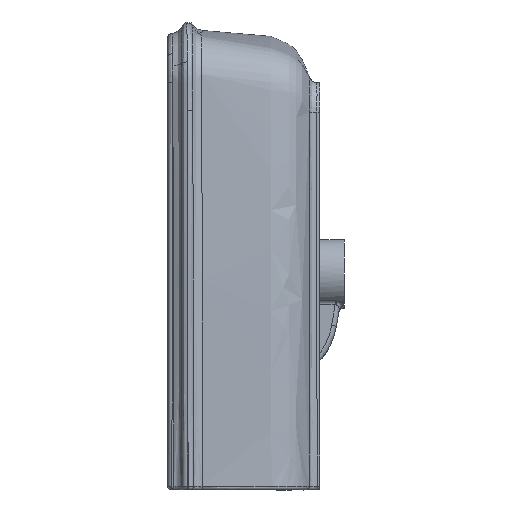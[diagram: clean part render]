
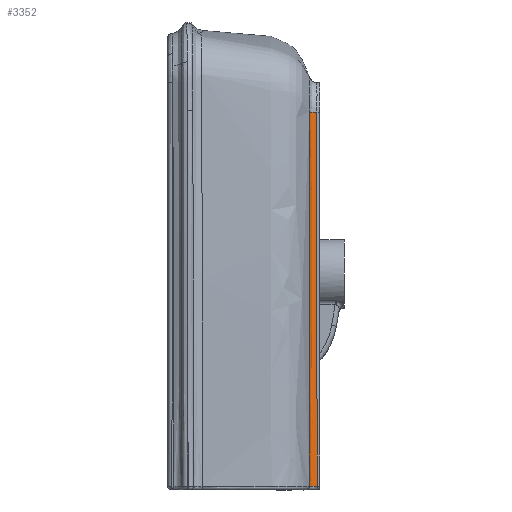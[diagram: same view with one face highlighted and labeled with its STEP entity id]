
A CAD part, left-side view. The second image highlights one B-rep face of the part: STEP entity #3352.
In plain terms, the highlighted free-form (B-spline) face has degree [3, 2] with [8, 3] control points.
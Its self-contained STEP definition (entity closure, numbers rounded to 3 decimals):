
#22 = CARTESIAN_POINT ( 'NONE',  ( -230., -152.072, 133.059 ) ) ;
#99 = CARTESIAN_POINT ( 'NONE',  ( -230., -151.983, 165. ) ) ;
#169 = CARTESIAN_POINT ( 'NONE',  ( -230., -152.209, -218.29 ) ) ;
#287 = EDGE_CURVE ( 'NONE', #6232, #12961, #1683, .T. ) ;
#292 = CARTESIAN_POINT ( 'NONE',  ( -232.533, -146.365, -216.001 ) ) ;
#359 = CARTESIAN_POINT ( 'NONE',  ( -230.326, -149.901, -216. ) ) ;
#578 = EDGE_CURVE ( 'NONE', #9837, #5517, #9220, .T. ) ;
#942 =( BOUNDED_SURFACE ( )  B_SPLINE_SURFACE ( 3, 2, ( 
 ( #99, #11779, #5875 ),
 ( #22, #5942, #5795 ),
 ( #4875, #8067, #3663 ),
 ( #4729, #2586, #1159 ),
 ( #13991, #11848, #12926 ),
 ( #12705, #10354, #2517 ),
 ( #3589, #1376, #6013 ),
 ( #169, #9356, #11634 ) ),
 .UNSPECIFIED., .F., .F., .F. ) 
 B_SPLINE_SURFACE_WITH_KNOTS ( ( 4, 2, 2, 4 ),
 ( 3, 3 ),
 ( 0., 0.096, 0.192, 0.383 ),
 ( 0., 1. ),
 .UNSPECIFIED. ) 
 GEOMETRIC_REPRESENTATION_ITEM ( )  RATIONAL_B_SPLINE_SURFACE ( (
 ( 1., 0.78, 1.),
 ( 1., 0.774, 1.),
 ( 1., 0.77, 1.),
 ( 1., 0.764, 1.),
 ( 1., 0.763, 1.),
 ( 1., 0.761, 1.),
 ( 1., 0.762, 1.),
 ( 1., 0.764, 1.) ) ) 
 REPRESENTATION_ITEM ( '' )  SURFACE ( )  );
#1159 = CARTESIAN_POINT ( 'NONE',  ( -236.653, -144.319, 37.23 ) ) ;
#1191 = ORIENTED_EDGE ( 'NONE', *, *, #5946, .F. ) ;
#1376 = CARTESIAN_POINT ( 'NONE',  ( -230., -145.441, -154.275 ) ) ;
#1412 = CARTESIAN_POINT ( 'NONE',  ( -230., -152.072, 133.25 ) ) ;
#1421 = CARTESIAN_POINT ( 'NONE',  ( -231.317, -147.787, -216.001 ) ) ;
#1571 = CARTESIAN_POINT ( 'NONE',  ( -230.042, -151.268, -216. ) ) ;
#1683 = CIRCLE ( 'NONE', #4604, 8. ) ;
#2111 = ORIENTED_EDGE ( 'NONE', *, *, #578, .T. ) ;
#2407 = CARTESIAN_POINT ( 'NONE',  ( -230., -152.204, 38. ) ) ;
#2443 = FACE_OUTER_BOUND ( 'NONE', #9061, .T. ) ;
#2517 = CARTESIAN_POINT ( 'NONE',  ( -236.735, -144.351, -90.526 ) ) ;
#2586 = CARTESIAN_POINT ( 'NONE',  ( -230., -145.456, 37.116 ) ) ;
#2604 = CARTESIAN_POINT ( 'NONE',  ( -236.661, -144.322, -216.001 ) ) ;
#2635 = CARTESIAN_POINT ( 'NONE',  ( -230.205, -150.351, -216. ) ) ;
#2638 = CARTESIAN_POINT ( 'NONE',  ( -236.516, -144.266, 101.482 ) ) ;
#2716 = CARTESIAN_POINT ( 'NONE',  ( -236.7, -144.337, -152.505 ) ) ;
#2862 = CARTESIAN_POINT ( 'NONE',  ( -236.196, -144.401, -216.001 ) ) ;
#2915 = CARTESIAN_POINT ( 'NONE',  ( -236.265, -144.174, 164.978 ) ) ;
#2985 = DIRECTION ( 'NONE',  ( 0., -1., 0.003 ) ) ;
#3137 = B_SPLINE_CURVE_WITH_KNOTS ( 'NONE', 3,
 ( #8324, #1412, #7116, #2407, #8178, #5833, #7044, #3846 ),
 .UNSPECIFIED., .F., .F.,
 ( 4, 2, 2, 4 ),
 ( 0., 0.095, 0.191, 0.381 ),
 .UNSPECIFIED. ) ;
#3352 = ADVANCED_FACE ( 'NONE', ( #2443 ), #942, .F. ) ;
#3589 = CARTESIAN_POINT ( 'NONE',  ( -230., -152.231, -154.408 ) ) ;
#3663 = CARTESIAN_POINT ( 'NONE',  ( -236.517, -144.267, 101.106 ) ) ;
#3783 = CARTESIAN_POINT ( 'NONE',  ( -236.661, -144.322, -216.001 ) ) ;
#3786 = CARTESIAN_POINT ( 'NONE',  ( -236.735, -144.351, -89.008 ) ) ;
#3846 = CARTESIAN_POINT ( 'NONE',  ( -230., -152.21, -216. ) ) ;
#3858 = CARTESIAN_POINT ( 'NONE',  ( -236.417, -144.228, 133.23 ) ) ;
#4010 = CARTESIAN_POINT ( 'NONE',  ( -231.585, -147.406, -216.001 ) ) ;
#4104 = ORIENTED_EDGE ( 'NONE', *, *, #11600, .F. ) ;
#4604 = AXIS2_PLACEMENT_3D ( 'NONE', #8447, #14457, #2985 ) ;
#4729 = CARTESIAN_POINT ( 'NONE',  ( -230., -152.205, 37.237 ) ) ;
#4875 = CARTESIAN_POINT ( 'NONE',  ( -230., -152.129, 101.118 ) ) ;
#5066 = CARTESIAN_POINT ( 'NONE',  ( -233.242, -145.762, -216.001 ) ) ;
#5225 = CARTESIAN_POINT ( 'NONE',  ( -232.04, -146.868, -216.001 ) ) ;
#5517 = VERTEX_POINT ( 'NONE', #11740 ) ;
#5795 = CARTESIAN_POINT ( 'NONE',  ( -236.418, -144.229, 133.043 ) ) ;
#5833 = CARTESIAN_POINT ( 'NONE',  ( -230., -152.251, -89. ) ) ;
#5875 = CARTESIAN_POINT ( 'NONE',  ( -236.265, -144.174, 164.978 ) ) ;
#5942 = CARTESIAN_POINT ( 'NONE',  ( -230., -145.525, 132.793 ) ) ;
#5946 = EDGE_CURVE ( 'NONE', #9837, #12961, #7582, .T. ) ;
#6013 = CARTESIAN_POINT ( 'NONE',  ( -236.699, -144.337, -154.406 ) ) ;
#6232 = VERTEX_POINT ( 'NONE', #10649 ) ;
#6286 = CARTESIAN_POINT ( 'NONE',  ( -236.686, -144.332, 6.237 ) ) ;
#6678 = ORIENTED_EDGE ( 'NONE', *, *, #287, .T. ) ;
#7044 = CARTESIAN_POINT ( 'NONE',  ( -230., -152.231, -152.5 ) ) ;
#7116 = CARTESIAN_POINT ( 'NONE',  ( -230., -152.128, 101.5 ) ) ;
#7266 = CARTESIAN_POINT ( 'NONE',  ( -230., -151.738, -216. ) ) ;
#7347 = CARTESIAN_POINT ( 'NONE',  ( -234.869, -144.833, -216.001 ) ) ;
#7582 = B_SPLINE_CURVE_WITH_KNOTS ( 'NONE', 3,
 ( #10764, #2716, #3786, #6286, #11631, #2638, #3858, #10910 ),
 .UNSPECIFIED., .F., .F.,
 ( 4, 2, 2, 4 ),
 ( 0.004, 0.194, 0.29, 0.385 ),
 .UNSPECIFIED. ) ;
#8067 = CARTESIAN_POINT ( 'NONE',  ( -230., -145.496, 100.994 ) ) ;
#8178 = CARTESIAN_POINT ( 'NONE',  ( -230., -152.223, 6.25 ) ) ;
#8324 = CARTESIAN_POINT ( 'NONE',  ( -230., -151.983, 165. ) ) ;
#8405 = CARTESIAN_POINT ( 'NONE',  ( -230.858, -148.598, -216.001 ) ) ;
#8447 = CARTESIAN_POINT ( 'NONE',  ( -238., -151.983, 165. ) ) ;
#8635 = CARTESIAN_POINT ( 'NONE',  ( -230.966, -148.391, -216.001 ) ) ;
#9061 = EDGE_LOOP ( 'NONE', ( #1191, #2111, #4104, #6678 ) ) ;
#9220 = B_SPLINE_CURVE_WITH_KNOTS ( 'NONE', 3,
 ( #3783, #2862, #12051, #7347, #9777, #10691, #5066, #11976, #292, #13270, #5225, #4010, #1421, #8635, #8405, #9548, #14183, #359, #2635, #1571, #7266, #11898 ),
 .UNSPECIFIED., .F., .F.,
 ( 4, 2, 2, 2, 2, 2, 2, 2, 2, 2, 4 ),
 ( 0., 0.001, 0.003, 0.004, 0.005, 0.006, 0.007, 0.008, 0.008, 0.01, 0.011 ),
 .UNSPECIFIED. ) ;
#9356 = CARTESIAN_POINT ( 'NONE',  ( -230., -145.454, -218.288 ) ) ;
#9548 = CARTESIAN_POINT ( 'NONE',  ( -230.659, -149.022, -216.001 ) ) ;
#9777 = CARTESIAN_POINT ( 'NONE',  ( -234.442, -145.029, -216.001 ) ) ;
#9837 = VERTEX_POINT ( 'NONE', #2604 ) ;
#10354 = CARTESIAN_POINT ( 'NONE',  ( -230., -145.43, -90.636 ) ) ;
#10649 = CARTESIAN_POINT ( 'NONE',  ( -230., -151.983, 165. ) ) ;
#10691 = CARTESIAN_POINT ( 'NONE',  ( -233.624, -145.496, -216.001 ) ) ;
#10764 = CARTESIAN_POINT ( 'NONE',  ( -236.661, -144.322, -216.001 ) ) ;
#10910 = CARTESIAN_POINT ( 'NONE',  ( -236.265, -144.174, 164.978 ) ) ;
#11600 = EDGE_CURVE ( 'NONE', #6232, #5517, #3137, .T. ) ;
#11631 = CARTESIAN_POINT ( 'NONE',  ( -236.651, -144.319, 37.985 ) ) ;
#11634 = CARTESIAN_POINT ( 'NONE',  ( -236.66, -144.322, -218.287 ) ) ;
#11740 = CARTESIAN_POINT ( 'NONE',  ( -230., -152.21, -216. ) ) ;
#11779 = CARTESIAN_POINT ( 'NONE',  ( -230., -145.565, 164.982 ) ) ;
#11848 = CARTESIAN_POINT ( 'NONE',  ( -230., -145.445, 5.265 ) ) ;
#11898 = CARTESIAN_POINT ( 'NONE',  ( -230., -152.21, -216. ) ) ;
#11976 = CARTESIAN_POINT ( 'NONE',  ( -232.705, -146.208, -216.001 ) ) ;
#12051 = CARTESIAN_POINT ( 'NONE',  ( -235.745, -144.52, -216.001 ) ) ;
#12705 = CARTESIAN_POINT ( 'NONE',  ( -230., -152.25, -90.527 ) ) ;
#12926 = CARTESIAN_POINT ( 'NONE',  ( -236.687, -144.332, 5.292 ) ) ;
#12961 = VERTEX_POINT ( 'NONE', #2915 ) ;
#13270 = CARTESIAN_POINT ( 'NONE',  ( -232.2, -146.694, -216.001 ) ) ;
#13991 = CARTESIAN_POINT ( 'NONE',  ( -230., -152.224, 5.296 ) ) ;
#14183 = CARTESIAN_POINT ( 'NONE',  ( -230.568, -149.24, -216.001 ) ) ;
#14457 = DIRECTION ( 'NONE',  ( 0., 0.003, 1. ) ) ;
